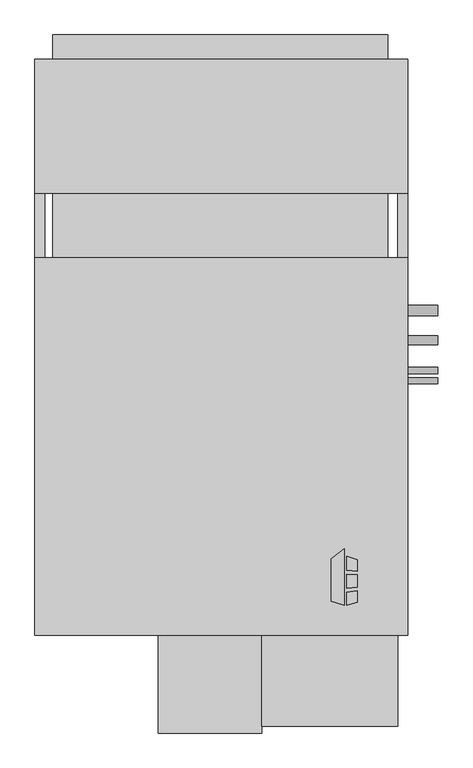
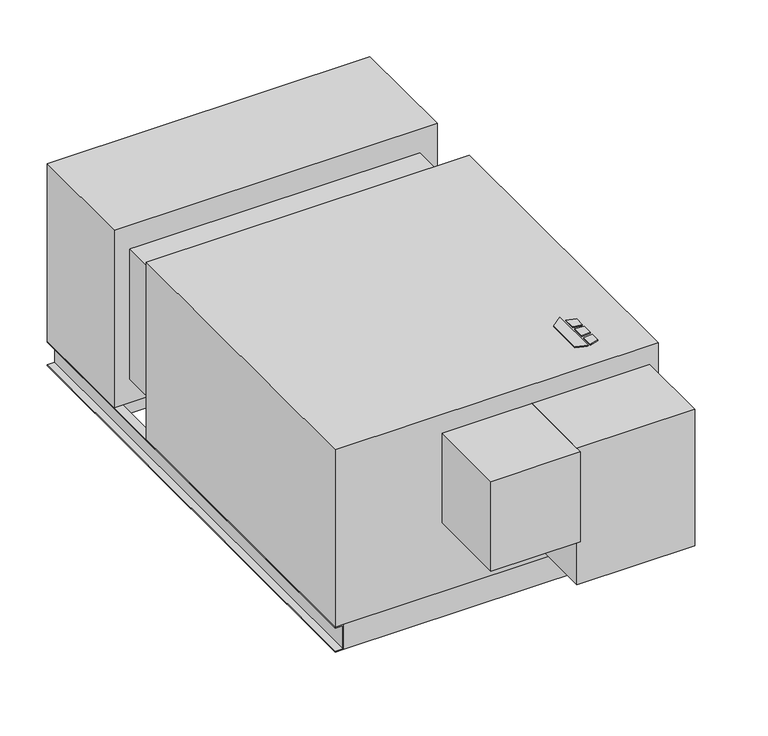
"""IFC4 building model written with IfcOpenShell, lengths in millimetres: proxy geometry, Horizontal_Direct_Drive_Blower_Coil_Unit_-_HDY_-_IEC_-_4-Pipe_NFilterR_W-MixingBox_RH_2022 : Size 10 - 460v/60Hz/3Ph - 6/2 Coil."""

import ifcopenshell
import ifcopenshell.guid

model = None  # the IFC model being written
_history = None  # IfcOwnerHistory: only IFC2X3 demands one
_inside = {}  # id of a spatial element -> (the spatial element, [elements in it])
_under = {}  # id of a project, library or spatial element -> (it, [spatial elements below it])
_declared = {}  # id of a project -> (the project, [libraries it declares])
_typed = {}  # id of a type object -> (the type object, [elements of that type])
_made_of = {}  # id of a material, layer set ... -> (it, [elements and type objects made of it])


def new_model(schema):
    """Start an empty IFC model of exactly this schema.

    Asked for "IFC4X3", IfcOpenShell would pick the latest addendum, in which some entities
    have other attributes; the version numbers below select the first issue.
    IFC2X3 requires an IfcOwnerHistory on every rooted entity: one is made here for all.
    """
    global model, _history
    if schema == "IFC4X3":
        model = ifcopenshell.file(schema_version=(4, 3, 0, 0))
    else:
        model = ifcopenshell.file(schema=schema)
    _inside.clear()
    _under.clear()
    _declared.clear()
    _typed.clear()
    _made_of.clear()
    _history = None
    if model.schema == "IFC2X3":
        org = make("IfcOrganization", Name="unknown")
        user = make(
            "IfcPersonAndOrganization",
            ThePerson=make("IfcPerson", FamilyName="unknown"),
            TheOrganization=org,
        )
        app = make(
            "IfcApplication",
            ApplicationDeveloper=org,
            Version="unknown",
            ApplicationFullName="unknown",
            ApplicationIdentifier="unknown",
        )
        _history = make(
            "IfcOwnerHistory",
            OwningUser=user,
            OwningApplication=app,
            ChangeAction="ADDED",
            CreationDate=0,
        )
    return model


def make(cls, **values):
    """One entity of the class cls with the attributes given. An attribute that is None is left unset."""
    return model.create_entity(
        cls, **{name: value for name, value in values.items() if value is not None}
    )


def rooted(cls, **values):
    """An entity with a GlobalId (a new one), such as an element, a storey or a relation."""
    return make(cls, GlobalId=ifcopenshell.guid.new(), OwnerHistory=_history, **values)


def si_unit(unit_type, name, prefix=None):
    """IfcSIUnit, for example si_unit("LENGTHUNIT", "METRE", prefix="MILLI")."""
    return make("IfcSIUnit", UnitType=unit_type, Prefix=prefix, Name=name)


def assignment(units):
    """IfcUnitAssignment: the units of a project."""
    return None if units is None else make("IfcUnitAssignment", Units=units)


def point(xyz):
    """IfcCartesianPoint."""
    return None if xyz is None else make("IfcCartesianPoint", Coordinates=xyz)


def direction(xyz):
    """IfcDirection."""
    return None if xyz is None else make("IfcDirection", DirectionRatios=xyz)


def frame(location, z_axis=None, x_axis=None):
    """IfcAxis2Placement3D, a coordinate frame: its origin and axes. An axis left out is left unset."""
    return make(
        "IfcAxis2Placement3D",
        Location=point(location),
        Axis=direction(z_axis),
        RefDirection=direction(x_axis),
    )


def frame_2d(location, x_axis=None):
    """IfcAxis2Placement2D, a coordinate frame in the plane: its origin and x axis."""
    return make(
        "IfcAxis2Placement2D", Location=point(location), RefDirection=direction(x_axis)
    )


def origin():
    """The frame at (0, 0, 0) with its axes left unset."""
    return frame((0.0, 0.0, 0.0))


def origin_with_axes():
    """The frame at (0, 0, 0) with the z axis (0, 0, 1) and the x axis (1, 0, 0) written out."""
    return frame((0.0, 0.0, 0.0), z_axis=(0.0, 0.0, 1.0), x_axis=(1.0, 0.0, 0.0))


def place(relative_to, where):
    """IfcLocalPlacement: puts the frame where relative to a parent placement (None: the world)."""
    return make(
        "IfcLocalPlacement", PlacementRelTo=relative_to, RelativePlacement=where
    )


def context(
    kind, dimensions, precision=None, world=None, true_north=None, identifier=None
):
    """IfcGeometricRepresentationContext, for example the 3D "Model" context."""
    return make(
        "IfcGeometricRepresentationContext",
        ContextIdentifier=identifier,
        ContextType=kind,
        CoordinateSpaceDimension=dimensions,
        Precision=precision,
        WorldCoordinateSystem=world,
        TrueNorth=true_north,
    )


def project(units=None, contexts=None):
    """IfcProject with its units and contexts."""
    return rooted(
        "IfcProject",
        Name="project",
        RepresentationContexts=contexts,
        UnitsInContext=assignment(units),
    )


def spatial(cls, under=None, at=None, **own):
    """A site, building, storey or space (cls), placed at a placement, below another one or the project."""
    s = rooted(cls, ObjectPlacement=at, **own)
    if under is not None:
        _under.setdefault(under.id(), (under, []))[1].append(s)
    return s


def polyline(points):
    """IfcPolyline through the points."""
    return make("IfcPolyline", Points=[point(p) for p in points])


def circle_curve(where, radius):
    """IfcCircle in the frame where."""
    return make("IfcCircle", Position=where, Radius=radius)


def trimmed(basis, trim1, trim2, sense, master):
    """IfcTrimmedCurve: the piece of a basis curve between two trims."""
    return make(
        "IfcTrimmedCurve",
        BasisCurve=basis,
        Trim1=trim1,
        Trim2=trim2,
        SenseAgreement=sense,
        MasterRepresentation=master,
    )


def segment(curve, same_sense, transition):
    """IfcCompositeCurveSegment."""
    return make(
        "IfcCompositeCurveSegment",
        Transition=transition,
        SameSense=same_sense,
        ParentCurve=curve,
    )


def composite_curve(segments, self_intersect=None):
    """IfcCompositeCurve: segments joined end to end."""
    return make("IfcCompositeCurve", Segments=segments, SelfIntersect=self_intersect)


def outline(outer, holes=None, kind="AREA"):
    """IfcArbitraryClosedProfileDef: a profile drawn as a closed curve; with holes, ...WithVoids."""
    if holes is None:
        return make("IfcArbitraryClosedProfileDef", ProfileType=kind, OuterCurve=outer)
    return make(
        "IfcArbitraryProfileDefWithVoids",
        ProfileType=kind,
        OuterCurve=outer,
        InnerCurves=holes,
    )


def extrude(swept, where, along, depth):
    """IfcExtrudedAreaSolid: the profile swept, set in the frame where, extruded along a direction by depth."""
    return make(
        "IfcExtrudedAreaSolid",
        SweptArea=swept,
        Position=where,
        ExtrudedDirection=direction(along),
        Depth=depth,
    )


def shape(context_of_items, identifier, shape_type, items):
    """IfcShapeRepresentation: the items that make up one representation, for example the "Body"."""
    return make(
        "IfcShapeRepresentation",
        ContextOfItems=context_of_items,
        RepresentationIdentifier=identifier,
        RepresentationType=shape_type,
        Items=items,
    )


def source(mapping_origin, context_of_items, identifier, shape_type, items):
    """IfcRepresentationMap: a shape defined once, which mapped items show again and again."""
    return make(
        "IfcRepresentationMap",
        MappingOrigin=mapping_origin,
        MappedRepresentation=shape(context_of_items, identifier, shape_type, items),
    )


def transform(
    local_origin,
    x_axis=None,
    y_axis=None,
    z_axis=None,
    scale=None,
    scale2=None,
    scale3=None,
    uniform=True,
):
    """IfcCartesianTransformationOperator3D, or its non-uniform kind. x_axis, y_axis, z_axis: its Axis1, 2, 3."""
    if uniform:
        return make(
            "IfcCartesianTransformationOperator3D",
            Axis1=direction(x_axis),
            Axis2=direction(y_axis),
            LocalOrigin=point(local_origin),
            Scale=scale,
            Axis3=direction(z_axis),
        )
    return make(
        "IfcCartesianTransformationOperator3DnonUniform",
        Axis1=direction(x_axis),
        Axis2=direction(y_axis),
        LocalOrigin=point(local_origin),
        Scale=scale,
        Axis3=direction(z_axis),
        Scale2=scale2,
        Scale3=scale3,
    )


def mapped(mapping_source, mapping_target):
    """IfcMappedItem: shows the shape of a source again, moved by a transform."""
    return make(
        "IfcMappedItem", MappingSource=mapping_source, MappingTarget=mapping_target
    )


def made_of(thing, what):
    """Note that an element or type object is made of a material, layer set ...; save() writes the relation."""
    if what is not None:
        _made_of.setdefault(what.id(), (what, []))[1].append(thing)
    return thing


def element(
    cls,
    number,
    at=None,
    inside=None,
    cuts=None,
    type_object=None,
    material=None,
    context=None,
    identifier="Body",
    shape_type=None,
    held_by="IfcProductDefinitionShape",
    body=None,
    shapes=None,
    **own,
):
    """One element of the class cls, such as IfcWall. Its Tag is "e" and its number.

    at: its placement. inside: the storey or other place that contains it. cuts: it is an
    opening in that element (IfcRelVoidsElement). A single representation is given by context,
    identifier, shape_type and body (its items); several are given by shapes. held_by: the class
    of the entity that holds the representations. save() writes the other relations.
    """
    e = rooted(cls, Tag="e%d" % number, ObjectPlacement=at, **own)
    if body is not None:
        shapes = [shape(context, identifier, shape_type, body)]
    if shapes is not None:
        e.Representation = make(held_by, Representations=shapes)
    if inside is not None:
        _inside.setdefault(inside.id(), (inside, []))[1].append(e)
    if cuts is not None:
        rooted(
            "IfcRelVoidsElement", RelatingBuildingElement=cuts, RelatedOpeningElement=e
        )
    if type_object is not None:
        _typed.setdefault(type_object.id(), (type_object, []))[1].append(e)
    return made_of(e, material)


def aggregate(whole, parts):
    """IfcRelAggregates: a whole, such as a stair, and the parts it consists of."""
    return rooted("IfcRelAggregates", RelatingObject=whole, RelatedObjects=parts)


def save(model, path):
    """Write the relations noted so far, then the file.

    IfcRelAggregates (storeys below a building ...), IfcRelContainedInSpatialStructure (elements
    in a storey), IfcRelDefinesByType, IfcRelAssociatesMaterial and IfcRelDeclares: one each for
    every whole, place, type object, material and project.
    """
    for whole, parts in _under.values():
        aggregate(whole, parts)
    for where, things in _inside.values():
        rooted(
            "IfcRelContainedInSpatialStructure",
            RelatedElements=things,
            RelatingStructure=where,
        )
    for kind, things in _typed.values():
        rooted("IfcRelDefinesByType", RelatedObjects=things, RelatingType=kind)
    for what, things in _made_of.values():
        rooted("IfcRelAssociatesMaterial", RelatedObjects=things, RelatingMaterial=what)
    for by, libraries in _declared.values():
        rooted("IfcRelDeclares", RelatingContext=by, RelatedDefinitions=libraries)
    model.write(path)


def mechanical_equipment_6874a00f(model_context):
    return source(origin(), model_context, "Body", "SweptSolid", [
        extrude(outline(polyline([(-319.3980239, -267.6578476), (-286.8397272, -242.2205184), (-286.8397272, -384.175), (-319.3980239, -373.9554201), (-319.3980239, -267.6578476)])), origin_with_axes(), (0.0, 0.0, 1.0), 3.175),
        extrude(outline(polyline([(-280.0813942, -295.529852), (-280.0813942, -261.0499379), (-254.0, -269.2365115), (-254.0, -298.7322446), (-280.0813942, -295.529852)])), origin_with_axes(), (0.0, 0.0, 1.0), 3.175),
        extrude(outline(polyline([(-254.0, -377.1865115), (-280.0813942, -384.175), (-280.0813942, -350.9536996), (-254.0, -347.4118564), (-254.0, -377.1865115)])), origin_with_axes(), (0.0, 0.0, 1.0), 3.175),
        extrude(outline(polyline([(-254.0, -307.8138277), (-254.0, -339.063983), (-280.0813942, -341.805248), (-280.0813942, -305.9475378), (-254.0, -307.8138277)])), origin_with_axes(), (0.0, 0.0, 1.0), 3.175),
        extrude(outline(polyline([(-177.8, 890.905), (-177.8, 687.705), (-1022.35, 687.705), (-1022.35, 890.905), (-177.8, 890.905)])), frame((0.0, 0.0, -607.06), z_axis=(0.0, 0.0, 1.0), x_axis=(1.0, 0.0, 0.0)), (0.0, 0.0, 1.0), 60.96),
        extrude(outline(polyline([(-1022.35, 1053.465), (-177.8, 1053.465), (-177.8, 992.505), (-1022.35, 992.505), (-1022.35, 1053.465)])), frame((0.0, 0.0, -279.4), z_axis=(0.0, 0.0, 1.0), x_axis=(1.0, 0.0, 0.0)), (0.0, 0.0, 1.0), 203.2),
        extrude(outline(polyline([(-127.0, 992.505), (-127.0, 654.05), (-1066.8, 654.05), (-1066.8, 992.505), (-127.0, 992.505)])), frame((0.0, 0.0, -546.1), z_axis=(0.0, 0.0, 1.0), x_axis=(1.0, 0.0, 0.0)), (0.0, 0.0, 1.0), 546.1),
        extrude(outline(polyline([(-152.4, -434.975), (-152.4, -460.375), (-1041.4, -460.375), (-1041.4, -434.975), (-152.4, -434.975)])), frame((0.0, 0.0, -622.3), z_axis=(0.0, 0.0, 1.0), x_axis=(1.0, 0.0, 0.0)), (0.0, 0.0, 1.0), 76.2),
        extrude(outline(polyline([(-152.4, 992.505), (-152.4, 967.105), (-1041.4, 967.105), (-1041.4, 992.505), (-152.4, 992.505)])), frame((0.0, 0.0, -622.3), z_axis=(0.0, 0.0, 1.0), x_axis=(1.0, 0.0, 0.0)), (0.0, 0.0, 1.0), 76.2),
        extrude(outline(polyline([(-546.1, -1041.4), (-546.1, -1066.8), (-549.275, -1066.8), (-549.275, -1044.575), (-619.125, -1044.575), (-619.125, -1066.8), (-622.3, -1066.8), (-622.3, -1041.4), (-546.1, -1041.4)])), frame((0.0, -460.375, 0.0), z_axis=(0.0, 1.0, 0.0), x_axis=(0.0, 0.0, 1.0)), (0.0, 0.0, 1.0), 1452.88),
        extrude(outline(polyline([(-546.1, -152.4), (-622.3, -152.4), (-622.3, -127.0), (-619.125, -127.0), (-619.125, -149.225), (-549.275, -149.225), (-549.275, -127.0), (-546.1, -127.0), (-546.1, -152.4)])), frame((0.0, -460.375, 0.0), z_axis=(0.0, 1.0, 0.0), x_axis=(0.0, 0.0, 1.0)), (0.0, 0.0, 1.0), 1452.88),
        extrude(outline(composite_curve([segment(trimmed(circle_curve(frame_2d((358.775, -177.8)), 12.7), [point((371.475, -177.8))], [point((346.075, -177.8))], False, "CARTESIAN"), True, "CONTINUOUS"), segment(trimmed(circle_curve(frame_2d((358.775, -177.8)), 12.7), [point((346.075, -177.8))], [point((371.475, -177.8))], False, "CARTESIAN"), True, "CONTINUOUS")], self_intersect=False)), frame((-127.0, 0.0, 0.0), z_axis=(1.0, 0.0, 0.0), x_axis=(0.0, 1.0, 0.0)), (0.0, 0.0, 1.0), 76.2),
        extrude(outline(composite_curve([segment(trimmed(circle_curve(frame_2d((359.642288, -419.1)), 12.7), [point((372.342288, -419.1))], [point((346.942288, -419.1))], False, "CARTESIAN"), True, "CONTINUOUS"), segment(trimmed(circle_curve(frame_2d((359.642288, -419.1)), 12.7), [point((346.942288, -419.1))], [point((372.342288, -419.1))], False, "CARTESIAN"), True, "CONTINUOUS")], self_intersect=False)), frame((-127.0, 0.0, 0.0), z_axis=(1.0, 0.0, 0.0), x_axis=(0.0, 1.0, 0.0)), (0.0, 0.0, 1.0), 76.2),
        extrude(outline(composite_curve([segment(trimmed(circle_curve(frame_2d((283.442288, -501.65)), 11.1125), [point((294.554788, -501.65))], [point((272.329788, -501.65))], False, "CARTESIAN"), True, "CONTINUOUS"), segment(trimmed(circle_curve(frame_2d((283.442288, -501.65)), 11.1125), [point((272.329788, -501.65))], [point((294.554788, -501.65))], False, "CARTESIAN"), True, "CONTINUOUS")], self_intersect=False)), frame((-127.0, 0.0, 0.0), z_axis=(1.0, 0.0, 0.0), x_axis=(0.0, 1.0, 0.0)), (0.0, 0.0, 1.0), 76.2),
        extrude(outline(composite_curve([segment(trimmed(circle_curve(frame_2d((207.242288, -228.6)), 7.9375), [point((215.179788, -228.6))], [point((199.304788, -228.6))], False, "CARTESIAN"), True, "CONTINUOUS"), segment(trimmed(circle_curve(frame_2d((207.242288, -228.6)), 7.9375), [point((199.304788, -228.6))], [point((215.179788, -228.6))], False, "CARTESIAN"), True, "CONTINUOUS")], self_intersect=False)), frame((-127.0, 0.0, 0.0), z_axis=(1.0, 0.0, 0.0), x_axis=(0.0, 1.0, 0.0)), (0.0, 0.0, 1.0), 76.2),
        extrude(outline(composite_curve([segment(trimmed(circle_curve(frame_2d((181.842288, -368.5792556)), 7.9375), [point((189.779788, -368.5792556))], [point((173.904788, -368.5792556))], False, "CARTESIAN"), True, "CONTINUOUS"), segment(trimmed(circle_curve(frame_2d((181.842288, -368.5792556)), 7.9375), [point((173.904788, -368.5792556))], [point((189.779788, -368.5792556))], False, "CARTESIAN"), True, "CONTINUOUS")], self_intersect=False)), frame((-127.0, 0.0, 0.0), z_axis=(1.0, 0.0, 0.0), x_axis=(0.0, 1.0, 0.0)), (0.0, 0.0, 1.0), 76.2),
        extrude(outline(polyline([(-127.0, 492.125), (-127.0, -460.375), (-1066.8, -460.375), (-1066.8, 492.125), (-127.0, 492.125)])), frame((0.0, 0.0, -546.1), z_axis=(0.0, 0.0, 1.0), x_axis=(1.0, 0.0, 0.0)), (0.0, 0.0, 1.0), 546.1),
        extrude(outline(polyline([(-152.4, -688.975), (-495.3, -688.975), (-495.3, -460.375), (-152.4, -460.375), (-152.4, -688.975)])), frame((0.0, 0.0, -476.25), z_axis=(0.0, 0.0, 1.0), x_axis=(1.0, 0.0, 0.0)), (0.0, 0.0, 1.0), 419.1),
        extrude(outline(polyline([(-1022.35, 654.05), (-177.8, 654.05), (-177.8, 492.125), (-1022.35, 492.125), (-1022.35, 654.05)])), frame((0.0, 0.0, -473.075), z_axis=(0.0, 0.0, 1.0), x_axis=(1.0, 0.0, 0.0)), (0.0, 0.0, 1.0), 400.05),
        extrude(outline(polyline([(-495.3, -706.4375), (-755.65, -706.4375), (-755.65, -460.375), (-495.3, -460.375), (-495.3, -706.4375)])), frame((0.0, 0.0, -333.375), z_axis=(0.0, 0.0, 1.0), x_axis=(1.0, 0.0, 0.0)), (0.0, 0.0, 1.0), 276.225),
    ])


if __name__ == "__main__":
    model = new_model("IFC4")
    model_context = context("Model", 3, world=origin())
    ifc_project = project(units=[si_unit("LENGTHUNIT", "METRE", prefix="MILLI")], contexts=[model_context])
    site = spatial("IfcSite", under=ifc_project)
    building = spatial("IfcBuilding", under=site)
    placement = place(None, origin())
    mechanical_equipment_shape = mechanical_equipment_6874a00f(model_context)
    element("IfcBuildingElementProxy", 1, Name="Horizontal_Direct_Drive_Blower_Coil_Unit_-_HDY_-_IEC_-_4-Pipe_NFilterR_W-MixingBox_RH_2022 : Size 10 - 460v/60Hz/3Ph - 6/2 Coil", ObjectType="Horizontal_Direct_Drive_Blower_Coil_Unit_-_HDY_-_IEC_-_4-Pipe_NFilterR_W-MixingBox_RH_2022 : Size 10 - 460v/60Hz/3Ph - 6/2 Coil", at=placement, inside=building, context=model_context, shape_type="MappedRepresentation", body=[
        mapped(mechanical_equipment_shape, transform((0.0, 0.0, 0.0), x_axis=(1.0, 0.0, 0.0), y_axis=(0.0, 1.0, 0.0), z_axis=(0.0, 0.0, 1.0))),
    ])
    save(model, "model.ifc")
